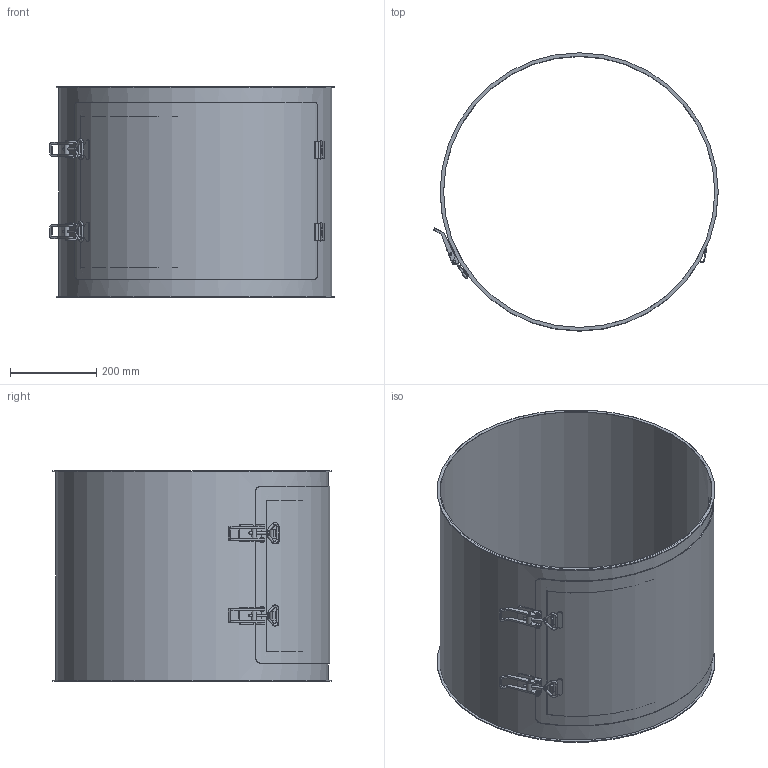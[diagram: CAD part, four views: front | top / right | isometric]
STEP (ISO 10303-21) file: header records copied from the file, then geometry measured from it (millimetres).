
FILE_DESCRIPTION((''),'2;1');
FILE_NAME('U:\Wolfgang\Marcel-3D\fertig\Kapitel 4\6321142.stp','2011-12-12T08:33:12',('iwienholt'),(''),'Autodesk Inventor 2010','Autodesk Inventor 2010','');
FILE_SCHEMA(('AUTOMOTIVE_DESIGN { 1 0 10303 214 1 1 1 1 }'));
Length unit declared in the file: millimetre
Products named in the file (14): 6321142; 6321142-Rohr; 6321142-verschluss; Verschluss ab 35-1; Verschluss ab 35-2; Verschluss ab 35-3; Verschluss ab 35-4; Verschluss ab 35-5; Gelenk63; Deckel63; 6321142 Halterung2; 6321142-Deckel; verschluss 63; 6321142 Halterung3
Assembly tree (19 placements, depth 3):
  6321142
    6321142-Rohr
    6321142-verschluss  x2
      Verschluss ab 35-1
      Verschluss ab 35-2
      Verschluss ab 35-3
      Verschluss ab 35-4
      Verschluss ab 35-5
    Gelenk63  x2
    Deckel63
      6321142 Halterung2  x2
      6321142-Deckel
      verschluss 63  x2
    6321142 Halterung3  x2
Bounding box: 658.63 x 644 x 488 mm (x, y, z)
Volume: 2173642.9 mm3; surface area: 2177822.4 mm2
Topology: 22 solids, 22 shells, 350 faces, 831 edges, 535 vertices
Faces by surface type: plane 186, cylinder 140, sphere 12, torus 8, bspline 4
Full cylindrical faces by diameter (mm): 4.917 x2, 5 x32, 6 x8, 12 x2, 628 x1, 632 x1, 644 x2
Entity records: 5963 total; most frequent: CARTESIAN_POINT 1270, DIRECTION 976, ORIENTED_EDGE 812, EDGE_CURVE 406, AXIS2_PLACEMENT_3D 385, VERTEX_POINT 279, EDGE_LOOP 241, VECTOR 206
